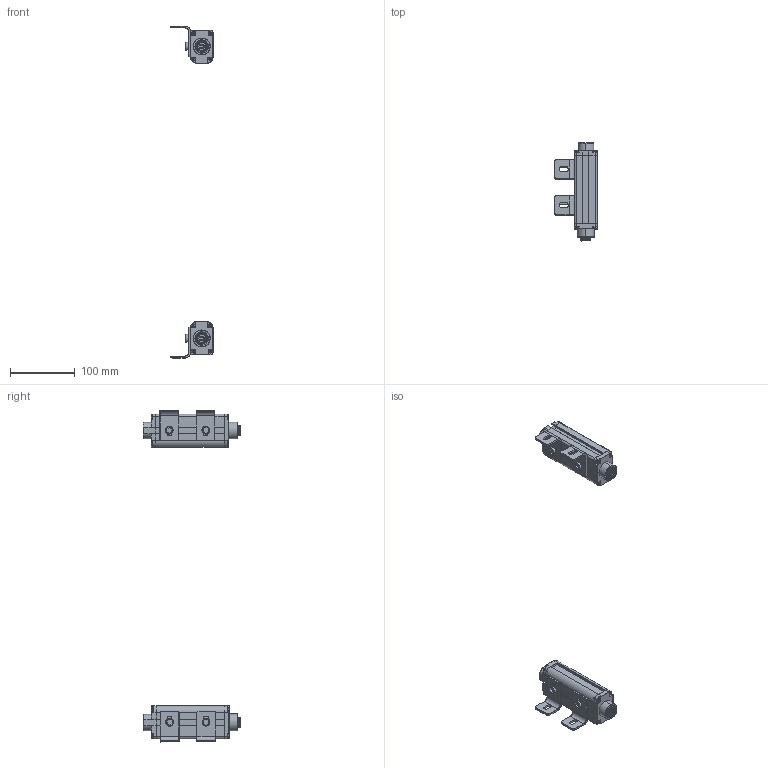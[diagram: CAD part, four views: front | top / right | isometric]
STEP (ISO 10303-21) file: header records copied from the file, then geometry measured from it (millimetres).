
FILE_DESCRIPTION (( 'STEP AP214' ), '1' );
FILE_NAME ('esn0810.STEP', '2018-03-08T12:36:25', ( '' ), ( '' ), 'SwSTEP 2.0', 'SolidWorks 2017', '' );
FILE_SCHEMA (( 'AUTOMOTIVE_DESIGN' ));
Length unit declared in the file: millimetre
Products named in the file (12): hkct11210_; esn21210_; m6-ls1210_; esndg21210_; esn0810; hk1210_; esndg1z1210_; lx1210_; lgp1210_; zj1210_; esndg11210_; pcb1210_
Assembly tree (40 placements, depth 2):
  esn0810
    esn21210_  x2
    esndg11210_
    pcb1210_  x2
    esndg21210_  x2
    lgp1210_  x2
    hkct11210_  x2
    lx1210_  x16
    hk1210_  x4
    zj1210_  x4
    m6-ls1210_  x4
    esndg1z1210_
Bounding box: 64.8 x 150.32 x 511.58 mm (x, y, z)
Volume: 228037 mm3; surface area: 164113.1 mm2
Topology: 40 solids, 40 shells, 2135 faces, 5651 edges, 3638 vertices
Faces by surface type: cylinder 1025, plane 706, bspline 404
Entity records: 184074 total; most frequent: CARTESIAN_POINT 166338, ORIENTED_EDGE 3838, DIRECTION 3268, EDGE_CURVE 1919, VERTEX_POINT 1228, AXIS2_PLACEMENT_3D 1165, LINE 938, VECTOR 938
